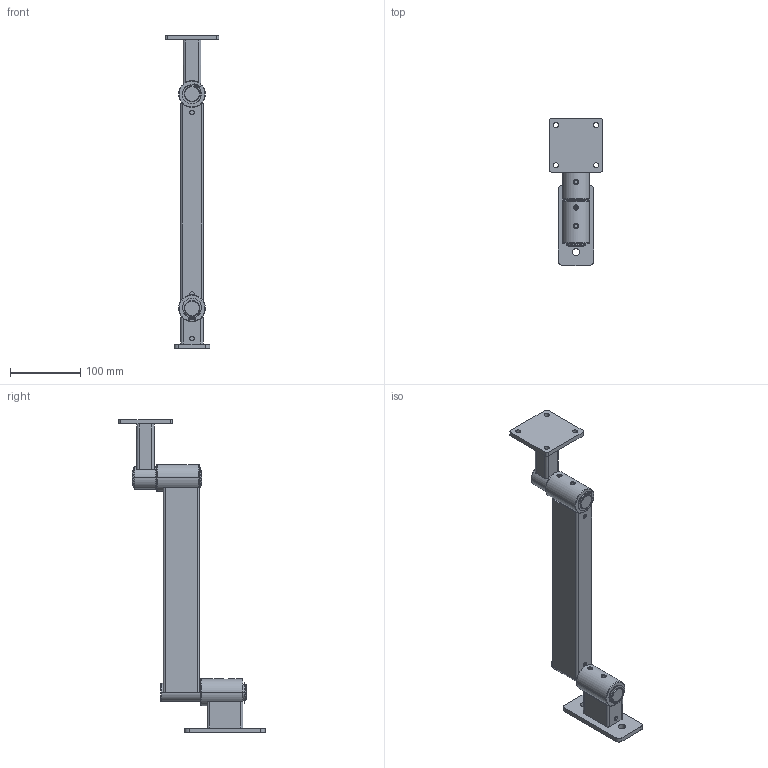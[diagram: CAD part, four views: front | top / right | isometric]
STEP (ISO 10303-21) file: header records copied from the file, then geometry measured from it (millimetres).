
FILE_DESCRIPTION (( 'STEP AP203' ), '1' );
FILE_NAME ('70-0600-00 REV AA, 12in RIGID ARM CONTROLLER, POWER SUPPLY MOUNT - EXTENDED.STEP', '2025-07-15T23:47:59', ( '' ), ( '' ), 'SwSTEP 2.0', 'SolidWorks 2025', '' );
FILE_SCHEMA (( 'CONFIG_CONTROL_DESIGN' ));
Length unit declared in the file: millimetre
Products named in the file (18): 70-0048-00 REV AA, CONNECTOR PIN ASSEMBLY, .875OD x 3.9; 70-0018-00 REV AA, MICRO HD WALL MOUNT; 70-0048-RX REV AA, CONNECTOR PIN, 875OD x 3.9; 71-0090-RX REV AA, HOUSING, MOUNT; 007-036-00, SHSS, 1''4-28, .25L_007-036-00; 010-012-00, RETAINING RING, EXTERNAL, .875in SHAFT; 71-0013-RX REV AA, HOUSING, BEARING, SHORT_MACHINE; 016-007-00, OILITE PLUS BEARING, 0.876 id x 1.002 od x 0.75 lg; 70-0055-00 REV AA, 3x3 PLATE ATTACHMENT; 71-2113-RX REV AA, HOUSING, BEARING, TALL, 1.5OD_MACHINE; 016-008-00, OILITE PLUS BEARING, 0.876 id x 1.002 od x 1.25 lg; 71-0022-RX REV AA, PIN, RIGID SECTION; 70-1012-00 REV AA, 12in RIGID SECTION; 70-0600-00 REV AA, 12in RIGID ARM CONTROLLER, POWER SUPPLY MOUNT - EXTENDED; 71-0055-RX REV AA, HOUSING, 3X3 PLATE_MACHINE; 71-1012-RX REV AA, HOUSING, 12in RIGID_MACHINE; 11-0055-RX REV AA, PLATE, 3X3 ATTACHMENT_Laser; 71-0218-RX REV AA, PLATE, MICRO HD, 4.5 x 2.0 x .25_Laser
Assembly tree (25 placements, depth 3):
  70-0600-00 REV AA, 12in RIGID ARM CONTROLLER, POWER SUPPLY MOUNT - EXTENDED
    70-0018-00 REV AA, MICRO HD WALL MOUNT
      71-0218-RX REV AA, PLATE, MICRO HD, 4.5 x 2.0 x .25_Laser
      71-0090-RX REV AA, HOUSING, MOUNT
      71-2113-RX REV AA, HOUSING, BEARING, TALL, 1.5OD_MACHINE
      016-007-00, OILITE PLUS BEARING, 0.876 id x 1.002 od x 0.75 lg
      016-008-00, OILITE PLUS BEARING, 0.876 id x 1.002 od x 1.25 lg
      007-036-00, SHSS, 1''4-28, .25L_007-036-00
    70-1012-00 REV AA, 12in RIGID SECTION
      71-1012-RX REV AA, HOUSING, 12in RIGID_MACHINE
      71-0022-RX REV AA, PIN, RIGID SECTION
      71-2113-RX REV AA, HOUSING, BEARING, TALL, 1.5OD_MACHINE
      016-007-00, OILITE PLUS BEARING, 0.876 id x 1.002 od x 0.75 lg
      016-008-00, OILITE PLUS BEARING, 0.876 id x 1.002 od x 1.25 lg
      007-036-00, SHSS, 1''4-28, .25L_007-036-00
      010-012-00, RETAINING RING, EXTERNAL, .875in SHAFT
    70-0048-00 REV AA, CONNECTOR PIN ASSEMBLY, .875OD x 3.9
      70-0048-RX REV AA, CONNECTOR PIN, 875OD x 3.9
      010-012-00, RETAINING RING, EXTERNAL, .875in SHAFT  x2
    70-0055-00 REV AA, 3x3 PLATE ATTACHMENT
      71-0055-RX REV AA, HOUSING, 3X3 PLATE_MACHINE
      71-0013-RX REV AA, HOUSING, BEARING, SHORT_MACHINE
      11-0055-RX REV AA, PLATE, 3X3 ATTACHMENT_Laser
      016-008-00, OILITE PLUS BEARING, 0.876 id x 1.002 od x 1.25 lg
      007-036-00, SHSS, 1''4-28, .25L_007-036-00
Bounding box: 76.2 x 208.41 x 445.13 mm (x, y, z)
Volume: 385664.4 mm3; surface area: 213727.2 mm2
Topology: 21 solids, 21 shells, 487 faces, 1165 edges, 716 vertices
Faces by surface type: cylinder 212, plane 130, cone 74, torus 62, bspline 9
Entity records: 12302 total; most frequent: CARTESIAN_POINT 3270, DIRECTION 1569, ORIENTED_EDGE 1374, EDGE_CURVE 687, AXIS2_PLACEMENT_3D 643, VERTEX_POINT 432, EDGE_LOOP 335, CIRCLE 327
